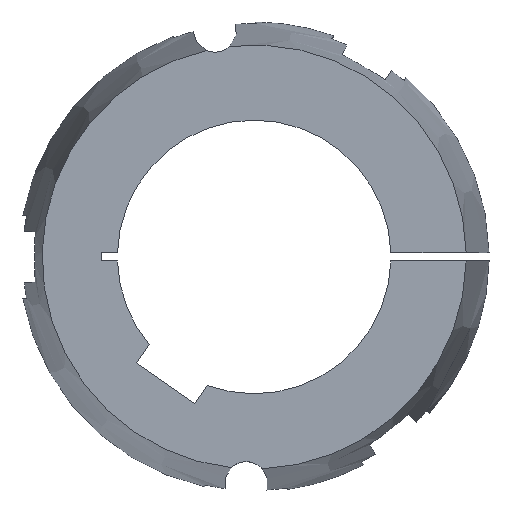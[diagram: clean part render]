
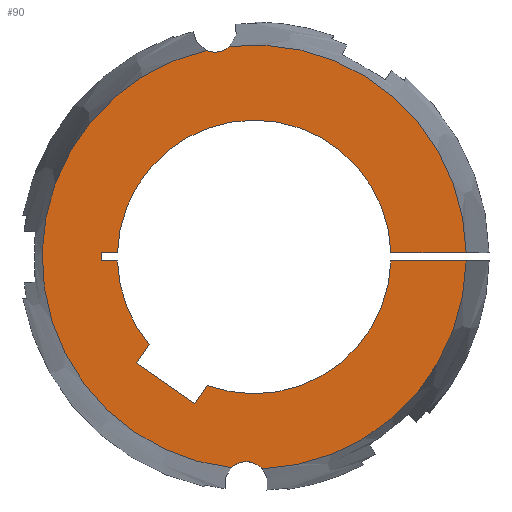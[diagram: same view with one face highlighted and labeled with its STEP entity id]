
A CAD part, left-side view. The second image highlights one B-rep face of the part: STEP entity #90.
In plain terms, the highlighted planar face has unit normal (-1, 0, 0).
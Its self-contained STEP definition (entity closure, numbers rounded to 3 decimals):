
#90 = ADVANCED_FACE( '', ( #140 ), #141, .F. );
#140 = FACE_OUTER_BOUND( '', #208, .T. );
#141 = PLANE( '', #209 );
#208 = EDGE_LOOP( '', ( #369, #370, #371, #372, #373, #374, #375, #376, #377, #378, #379, #380, #381, #382, #383, #384 ) );
#209 = AXIS2_PLACEMENT_3D( '', #385, #386, #387 );
#369 = ORIENTED_EDGE( '', *, *, #548, .F. );
#370 = ORIENTED_EDGE( '', *, *, #601, .F. );
#371 = ORIENTED_EDGE( '', *, *, #570, .T. );
#372 = ORIENTED_EDGE( '', *, *, #583, .T. );
#373 = ORIENTED_EDGE( '', *, *, #581, .T. );
#374 = ORIENTED_EDGE( '', *, *, #578, .T. );
#375 = ORIENTED_EDGE( '', *, *, #587, .T. );
#376 = ORIENTED_EDGE( '', *, *, #602, .T. );
#377 = ORIENTED_EDGE( '', *, *, #603, .T. );
#378 = ORIENTED_EDGE( '', *, *, #604, .T. );
#379 = ORIENTED_EDGE( '', *, *, #605, .T. );
#380 = ORIENTED_EDGE( '', *, *, #606, .T. );
#381 = ORIENTED_EDGE( '', *, *, #572, .T. );
#382 = ORIENTED_EDGE( '', *, *, #607, .F. );
#383 = ORIENTED_EDGE( '', *, *, #551, .F. );
#384 = ORIENTED_EDGE( '', *, *, #608, .F. );
#385 = CARTESIAN_POINT( '', ( -102., 0., 0. ) );
#386 = DIRECTION( '', ( 1., 0., 0. ) );
#387 = DIRECTION( '', ( 0., 1., 0. ) );
#548 = EDGE_CURVE( '', #649, #651, #652, .F. );
#551 = EDGE_CURVE( '', #655, #657, #658, .F. );
#570 = EDGE_CURVE( '', #693, #691, #694, .T. );
#572 = EDGE_CURVE( '', #696, #697, #698, .T. );
#578 = EDGE_CURVE( '', #709, #707, #710, .T. );
#581 = EDGE_CURVE( '', #714, #709, #715, .T. );
#583 = EDGE_CURVE( '', #691, #714, #717, .T. );
#587 = EDGE_CURVE( '', #707, #721, #723, .T. );
#601 = EDGE_CURVE( '', #693, #649, #745, .T. );
#602 = EDGE_CURVE( '', #721, #746, #747, .T. );
#603 = EDGE_CURVE( '', #746, #748, #749, .T. );
#604 = EDGE_CURVE( '', #748, #750, #751, .T. );
#605 = EDGE_CURVE( '', #750, #752, #753, .T. );
#606 = EDGE_CURVE( '', #752, #696, #754, .T. );
#607 = EDGE_CURVE( '', #657, #697, #755, .T. );
#608 = EDGE_CURVE( '', #651, #655, #756, .T. );
#649 = VERTEX_POINT( '', #815 );
#651 = VERTEX_POINT( '', #828 );
#652 = CIRCLE( '', #829, 6.75 );
#655 = VERTEX_POINT( '', #843 );
#657 = VERTEX_POINT( '', #856 );
#658 = CIRCLE( '', #857, 6.75 );
#691 = VERTEX_POINT( '', #924 );
#693 = VERTEX_POINT( '', #927 );
#694 = LINE( '', #928, #929 );
#696 = VERTEX_POINT( '', #937 );
#697 = VERTEX_POINT( '', #938 );
#698 = LINE( '', #939, #940 );
#707 = VERTEX_POINT( '', #958 );
#709 = VERTEX_POINT( '', #961 );
#710 = LINE( '', #962, #963 );
#714 = VERTEX_POINT( '', #969 );
#715 = LINE( '', #970, #971 );
#717 = CIRCLE( '', #974, 42.5 );
#721 = VERTEX_POINT( '', #979 );
#723 = LINE( '', #982, #983 );
#745 = CIRCLE( '', #1008, 65.867 );
#746 = VERTEX_POINT( '', #1009 );
#747 = CIRCLE( '', #1010, 42.5 );
#748 = VERTEX_POINT( '', #1011 );
#749 = LINE( '', #1012, #1013 );
#750 = VERTEX_POINT( '', #1014 );
#751 = LINE( '', #1015, #1016 );
#752 = VERTEX_POINT( '', #1017 );
#753 = LINE( '', #1018, #1019 );
#754 = CIRCLE( '', #1020, 42.5 );
#755 = CIRCLE( '', #1021, 65.867 );
#756 = CIRCLE( '', #1022, 65.867 );
#815 = CARTESIAN_POINT( '', ( -102., -2.538, -65.819 ) );
#828 = CARTESIAN_POINT( '', ( -102., 7.121, -65.481 ) );
#829 = AXIS2_PLACEMENT_3D( '', #1188, #1189, #1190 );
#843 = CARTESIAN_POINT( '', ( -102., 14.891, 64.162 ) );
#856 = CARTESIAN_POINT( '', ( -102., 7.611, 65.426 ) );
#857 = AXIS2_PLACEMENT_3D( '', #1191, #1192, #1193 );
#924 = CARTESIAN_POINT( '', ( -102., -42.482, -1.25 ) );
#927 = CARTESIAN_POINT( '', ( -102., -65.856, -1.25 ) );
#928 = CARTESIAN_POINT( '', ( -102., -73., -1.25 ) );
#929 = VECTOR( '', #1223, 1000. );
#937 = CARTESIAN_POINT( '', ( -102., -42.482, 1.25 ) );
#938 = CARTESIAN_POINT( '', ( -102., -65.856, 1.25 ) );
#939 = CARTESIAN_POINT( '', ( -102., 0., 1.25 ) );
#940 = VECTOR( '', #1224, 1000. );
#958 = CARTESIAN_POINT( '', ( -102., 36.485, -32.928 ) );
#961 = CARTESIAN_POINT( '', ( -102., 18.464, -45.547 ) );
#962 = CARTESIAN_POINT( '', ( -102., 18.464, -45.547 ) );
#963 = VECTOR( '', #1229, 1000. );
#969 = CARTESIAN_POINT( '', ( -102., 14.536, -39.937 ) );
#970 = CARTESIAN_POINT( '', ( -102., 14.536, -39.937 ) );
#971 = VECTOR( '', #1232, 1000. );
#974 = AXIS2_PLACEMENT_3D( '', #1234, #1235, #1236 );
#979 = CARTESIAN_POINT( '', ( -102., 32.557, -27.318 ) );
#982 = CARTESIAN_POINT( '', ( -102., 36.485, -32.928 ) );
#983 = VECTOR( '', #1242, 1000. );
#1008 = AXIS2_PLACEMENT_3D( '', #1276, #1277, #1278 );
#1009 = CARTESIAN_POINT( '', ( -102., 42.482, -1.25 ) );
#1010 = AXIS2_PLACEMENT_3D( '', #1279, #1280, #1281 );
#1011 = CARTESIAN_POINT( '', ( -102., 47.5, -1.25 ) );
#1012 = CARTESIAN_POINT( '', ( -102., 0., -1.25 ) );
#1013 = VECTOR( '', #1282, 1000. );
#1014 = CARTESIAN_POINT( '', ( -102., 47.5, 1.25 ) );
#1015 = CARTESIAN_POINT( '', ( -102., 47.5, -1.25 ) );
#1016 = VECTOR( '', #1283, 1000. );
#1017 = CARTESIAN_POINT( '', ( -102., 42.482, 1.25 ) );
#1018 = CARTESIAN_POINT( '', ( -102., 47.5, 1.25 ) );
#1019 = VECTOR( '', #1284, 1000. );
#1020 = AXIS2_PLACEMENT_3D( '', #1285, #1286, #1287 );
#1021 = AXIS2_PLACEMENT_3D( '', #1288, #1289, #1290 );
#1022 = AXIS2_PLACEMENT_3D( '', #1291, #1292, #1293 );
#1188 = CARTESIAN_POINT( '', ( -102., 2.456, -70.36 ) );
#1189 = DIRECTION( '', ( 1., 0., 0. ) );
#1190 = DIRECTION( '', ( 0., 1., 0. ) );
#1191 = CARTESIAN_POINT( '', ( -102., 12.218, 70.36 ) );
#1192 = DIRECTION( '', ( 1., 0., 0. ) );
#1193 = DIRECTION( '', ( 0., 1., 0. ) );
#1223 = DIRECTION( '', ( 0., 1., 0. ) );
#1224 = DIRECTION( '', ( 0., -1., 0. ) );
#1229 = DIRECTION( '', ( 0., 0.819, 0.574 ) );
#1232 = DIRECTION( '', ( 0., 0.574, -0.819 ) );
#1234 = CARTESIAN_POINT( '', ( -102., 0., 0. ) );
#1235 = DIRECTION( '', ( 1., 0., 0. ) );
#1236 = DIRECTION( '', ( 0., 0., -1. ) );
#1242 = DIRECTION( '', ( 0., -0.574, 0.819 ) );
#1276 = CARTESIAN_POINT( '', ( -102., 0., 0. ) );
#1277 = DIRECTION( '', ( 1., 0., 0. ) );
#1278 = DIRECTION( '', ( 0., 1., 0. ) );
#1279 = CARTESIAN_POINT( '', ( -102., 0., 0. ) );
#1280 = DIRECTION( '', ( 1., 0., 0. ) );
#1281 = DIRECTION( '', ( 0., 0., -1. ) );
#1282 = DIRECTION( '', ( 0., 1., 0. ) );
#1283 = DIRECTION( '', ( 0., 0., 1. ) );
#1284 = DIRECTION( '', ( 0., -1., 0. ) );
#1285 = CARTESIAN_POINT( '', ( -102., 0., 0. ) );
#1286 = DIRECTION( '', ( 1., 0., 0. ) );
#1287 = DIRECTION( '', ( 0., 0., -1. ) );
#1288 = CARTESIAN_POINT( '', ( -102., 0., 0. ) );
#1289 = DIRECTION( '', ( 1., 0., 0. ) );
#1290 = DIRECTION( '', ( 0., 1., 0. ) );
#1291 = CARTESIAN_POINT( '', ( -102., 0., 0. ) );
#1292 = DIRECTION( '', ( 1., 0., 0. ) );
#1293 = DIRECTION( '', ( 0., 1., 0. ) );
